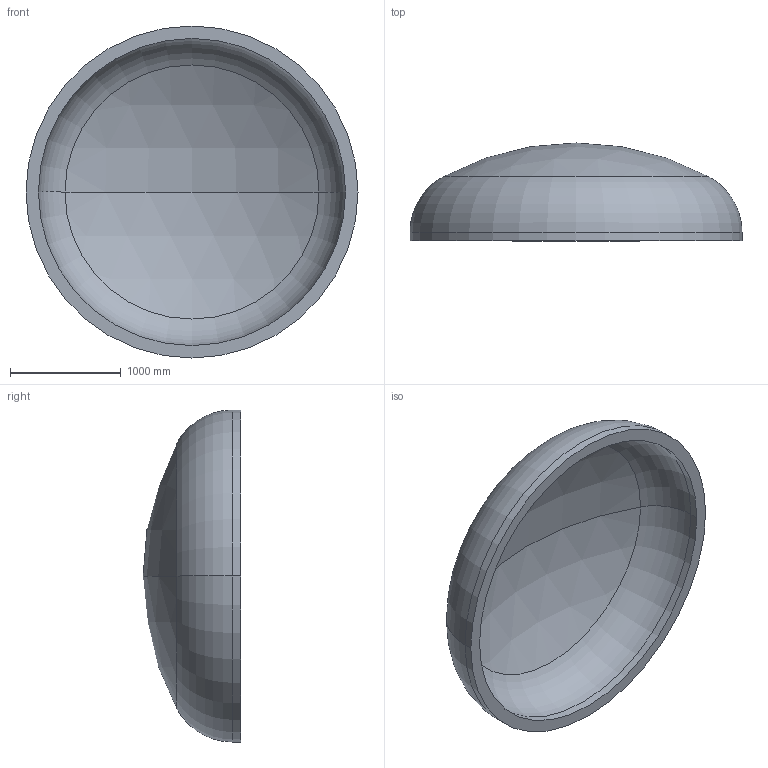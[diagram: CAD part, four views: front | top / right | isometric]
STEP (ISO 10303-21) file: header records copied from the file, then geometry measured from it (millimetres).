
FILE_DESCRIPTION (( 'STEP AP203' ), '1' );
FILE_NAME ('DIN 28013 Korbbogenform_-_Boden DIN 28013 - 3000 x 75 - I - s=112.step', '2016-07-01T18:10:34', ( '' ), ( '' ), 'SwSTEP 2.0', 'SolidWorks 2013', '' );
FILE_SCHEMA (( 'CONFIG_CONTROL_DESIGN' ));
Length unit declared in the file: millimetre
Products named in the file (1): DIN 28013 Korbbogenform_-_Boden DIN 28013 - 3000 x 75 - I - s=112
Bounding box: 3000 x 883.35 x 3000 mm (x, y, z)
Volume: 1119876808.9 mm3; surface area: 21040232.8 mm2
Topology: 1 solids, 1 shells, 13 faces, 24 edges, 14 vertices
Faces by surface type: torus 4, cylinder 4, sphere 4, plane 1
Entity records: 407 total; most frequent: DIRECTION 72, CARTESIAN_POINT 52, ORIENTED_EDGE 48, AXIS2_PLACEMENT_3D 34, EDGE_CURVE 24, CIRCLE 20, EDGE_LOOP 14, VERTEX_POINT 14
